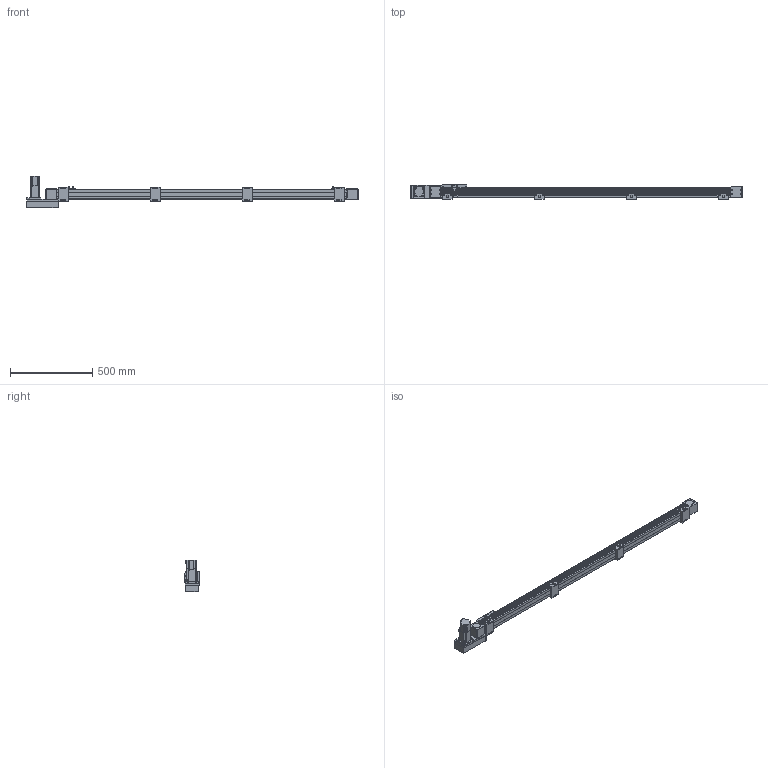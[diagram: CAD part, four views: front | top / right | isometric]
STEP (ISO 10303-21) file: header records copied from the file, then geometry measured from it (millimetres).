
FILE_DESCRIPTION(/* description */ ('STEP AP214'),/* implementation_level */ '2;1');
FILE_NAME(/* name */ 'SK60-P13-S1600-L-T40-C1-N(0)',/* time_stamp */ '2023-04-06T04:11:18+02:00',/* author */ ('License CC BY-ND 4.0'),/* organization */ ('CADENAS'),/* preprocessor_version */ 'ST-DEVELOPER v19.3',/* originating_system */ 'PARTsolutions',/* authorisation */ ' ');
FILE_SCHEMA (('AUTOMOTIVE_DESIGN {1 0 10303 214 3 1 1}'));
Length unit declared in the file: millimetre
Products named in the file (10): SK60-P13-S1600-L-T40-C1-N(0); PSC140-sensor; SK60-S450_seat; SK60-S450-BL-C1_slider; SK60_body3; SK60_body6; SK60-BL_body2; T40-p1; SK60-L_fb; SK60-S1600-L-C1_body
Assembly tree (18 placements, depth 2):
  SK60-P13-S1600-L-T40-C1-N(0)
    PSC140-sensor  x3
    SK60-S450_seat  x4
    SK60-S450-BL-C1_slider
    SK60_body3  x3
    SK60_body6  x2
    SK60-BL_body2  x2
    T40-p1
    SK60-L_fb
    SK60-S1600-L-C1_body
Bounding box: 2020.5 x 90 x 189.7 mm (x, y, z)
Volume: 7692365.5 mm3; surface area: 937776.1 mm2
Topology: 18 solids, 18 shells, 898 faces, 2244 edges, 1477 vertices
Faces by surface type: plane 572, cylinder 294, cone 30, torus 2
Full cylindrical faces by diameter (mm): 2.8 x3, 3.3 x4, 4 x2, 4.5 x30, 4.6 x3, 4.917 x24, 5 x6, 5.478 x4, 5.5 x27, 6.5 x8, 7 x2, 8 x4, 8.5 x4, 9.988 x4, 10 x16, 14 x1, 47 x3, 50 x2
Entity records: 18671 total; most frequent: DIRECTION 3188, CARTESIAN_POINT 3152, ORIENTED_EDGE 2940, EDGE_CURVE 1470, AXIS2_PLACEMENT_3D 1070, LINE 1048, VECTOR 1048, VERTEX_POINT 1034
